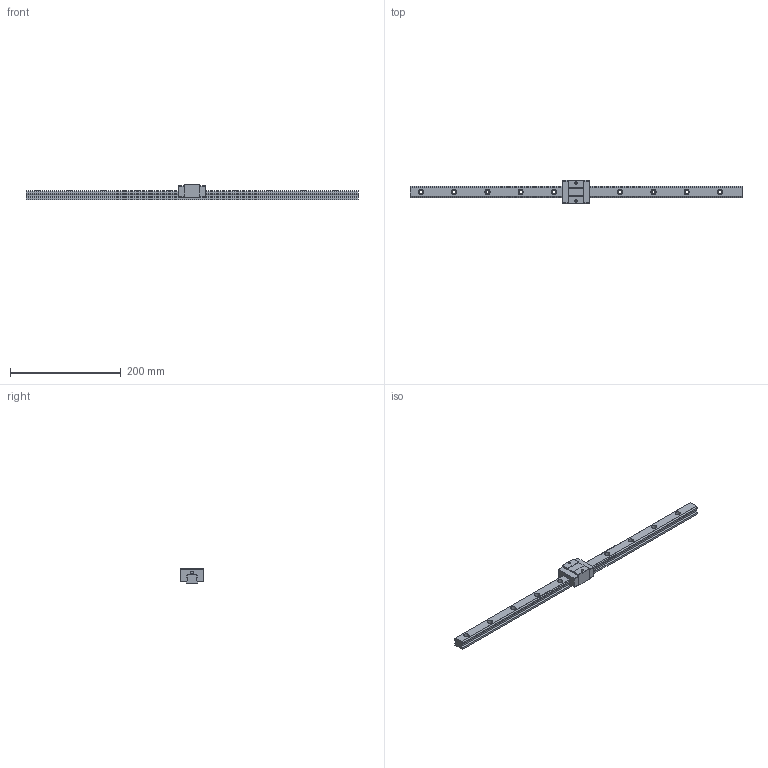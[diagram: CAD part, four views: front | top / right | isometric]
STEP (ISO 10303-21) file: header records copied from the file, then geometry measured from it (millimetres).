
FILE_DESCRIPTION(/* description */ (''),/* implementation_level */ '2;1');
FILE_NAME(/* name */ 'TRS20VS-XN.stp',/* time_stamp */ '2017-10-25T17:09:09+08:00',/* author */ (''),/* organization */ (''),/* preprocessor_version */ 'ST-DEVELOPER v11',/* originating_system */ 'SIEMENS UGS NX 6.0',/* authorisation */ '');
FILE_SCHEMA (('AUTOMOTIVE_DESIGN { 1 0 10303 214 1 1 1 1 }'));
Length unit declared in the file: millimetre
Products named in the file (1): TRS20VS-XN
Bounding box: 600 x 42 x 28 mm (x, y, z)
Volume: 202992 mm3; surface area: 58610.7 mm2
Topology: 2 solids, 2 shells, 122 faces, 306 edges, 202 vertices
Faces by surface type: plane 78, cylinder 44
Full cylindrical faces by diameter (mm): 4.3 x2, 5 x2, 6 x10, 9.5 x10
Entity records: 3986 total; most frequent: DIRECTION 606, CARTESIAN_POINT 587, ORIENTED_EDGE 544, EDGE_CURVE 272, AXIS2_PLACEMENT_3D 211, VERTEX_POINT 192, LINE 184, VECTOR 184
